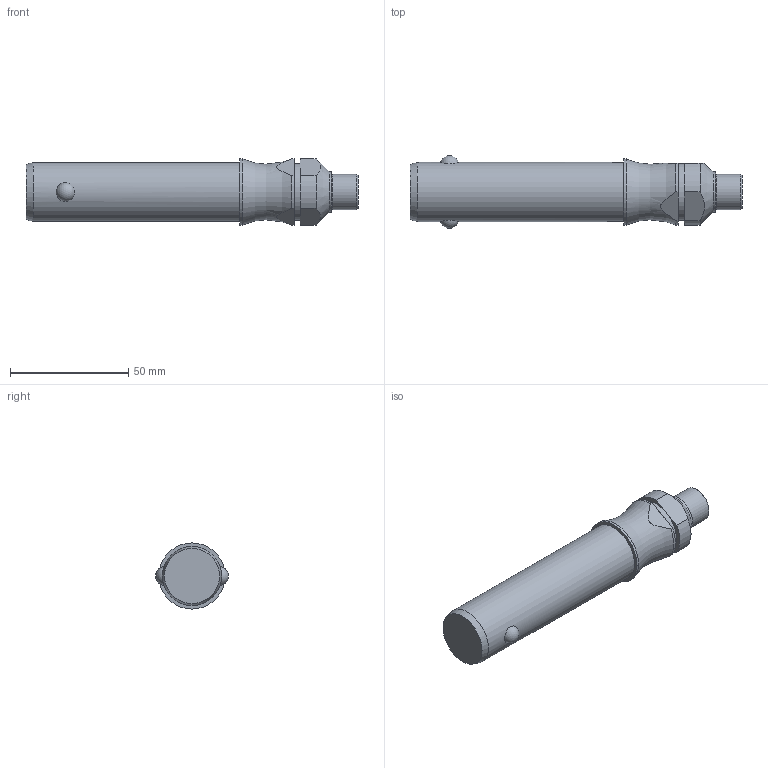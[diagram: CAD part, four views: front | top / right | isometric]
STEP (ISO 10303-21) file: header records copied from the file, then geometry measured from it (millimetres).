
FILE_DESCRIPTION( ( 'STEP AP203' ), '1' );
FILE_NAME( 'C:/Temp/Ganter_Step_05_03_2020/data/3_1/gn113_3/Stainless Steel-Ball lock pin GN 113.3-25-70 (deactivated).stp', '2020-03-12T08:19:10', ( 'License CC BY-ND 4.0' ), ( 'CADENAS' ), ' ', 'PARTsolutions', ' ' );
FILE_SCHEMA( ( 'CONFIG_CONTROL_DESIGN' ) );
Length unit declared in the file: millimetre
Products named in the file (1): _Stainless Steel-Ball lock pin GN 113.3-25-70 (deactivated)
Bounding box: 140.6 x 30.74 x 28 mm (x, y, z)
Volume: 65299.7 mm3; surface area: 11893.7 mm2
Topology: 1 solids, 1 shells, 29 faces, 65 edges, 42 vertices
Faces by surface type: plane 11, cylinder 11, cone 4, sphere 2, torus 1
Full cylindrical faces by diameter (mm): 15 x1, 17 x1, 24 x1, 25 x1, 28 x1
Entity records: 1006 total; most frequent: CARTESIAN_POINT 376, DIRECTION 126, ORIENTED_EDGE 100, AXIS2_PLACEMENT_3D 54, EDGE_CURVE 50, EDGE_LOOP 44, VERTEX_POINT 38, FACE_OUTER_BOUND 35
